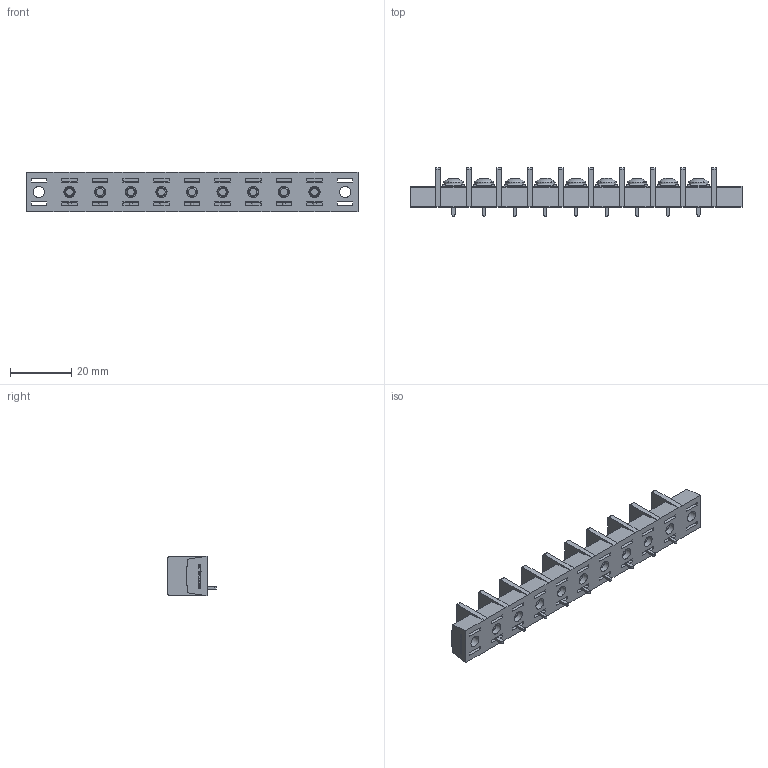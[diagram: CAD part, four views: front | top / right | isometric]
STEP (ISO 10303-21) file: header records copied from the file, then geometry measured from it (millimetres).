
FILE_DESCRIPTION(/* description */ ('Alibre Inc.'),/* implementation_level */ '2;1');
FILE_NAME(/* name */ 'export0',/* time_stamp */ '2015-10-22T20:07:33+09:00',/* author */ (''),/* organization */ (''),/* preprocessor_version */ 'ST-DEVELOPER v14',/* originating_system */ 'Alibre',/* authorisation */ '');
FILE_SCHEMA (('CONFIG_CONTROL_DESIGN'));
Length unit declared in the file: centimetre
Products named in the file (1): ID_1
Bounding box: 108.4 x 15.8 x 12.8 mm (x, y, z)
Volume: 9454.6 mm3; surface area: 10849 mm2
Topology: 1 solids, 154 shells, 2941 faces, 7555 edges, 5000 vertices
Faces by surface type: plane 2201, bspline 572, cylinder 96, cone 45, torus 18, sphere 9
Full cylindrical faces by diameter (mm): 3 x18, 3.7 x11, 4.6 x11, 6.3 x9
Entity records: 85062 total; most frequent: CARTESIAN_POINT 20548, ORIENTED_EDGE 14900, DIRECTION 8930, EDGE_CURVE 7450, VECTOR 5745, LINE 5745, VERTEX_POINT 4971, EDGE_LOOP 3233
